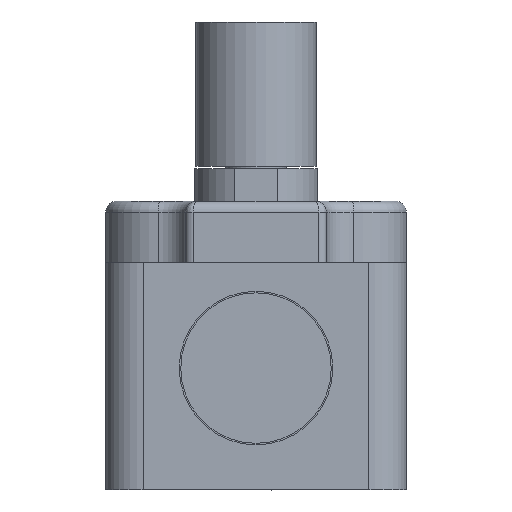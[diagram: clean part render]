
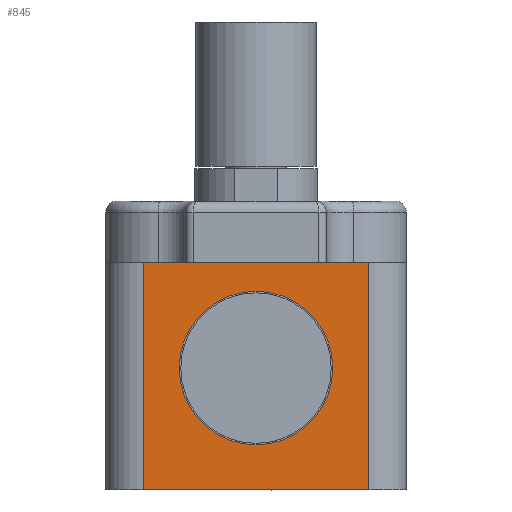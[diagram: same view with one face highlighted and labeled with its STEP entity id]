
A CAD part, front view. The second image highlights one B-rep face of the part: STEP entity #845.
In plain terms, the highlighted planar face has unit normal (0, -1, 0).
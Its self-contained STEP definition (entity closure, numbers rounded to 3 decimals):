
#324 = VERTEX_POINT ( 'NONE', #13535 ) ;
#326 = EDGE_CURVE ( 'NONE', #324, #327, #13534, .T. ) ;
#327 = VERTEX_POINT ( 'NONE', #13529 ) ;
#548 = VERTEX_POINT ( 'NONE', #14017 ) ;
#550 = EDGE_CURVE ( 'NONE', #551, #548, #14016, .T. ) ;
#551 = VERTEX_POINT ( 'NONE', #14012 ) ;
#845 = ADVANCED_FACE ( 'NONE', ( #14933, #14932 ), #14931, .T. ) ;
#846 = ORIENTED_EDGE ( 'NONE', *, *, #847, .F. ) ;
#847 = EDGE_CURVE ( 'NONE', #327, #324, #14929, .T. ) ;
#848 = ORIENTED_EDGE ( 'NONE', *, *, #326, .F. ) ;
#849 = EDGE_LOOP ( 'NONE', ( #850, #851, #854, #856 ) ) ;
#850 = ORIENTED_EDGE ( 'NONE', *, *, #868, .T. ) ;
#851 = ORIENTED_EDGE ( 'NONE', *, *, #852, .F. ) ;
#852 = EDGE_CURVE ( 'NONE', #853, #866, #14921, .T. ) ;
#853 = VERTEX_POINT ( 'NONE', #14917 ) ;
#854 = ORIENTED_EDGE ( 'NONE', *, *, #855, .F. ) ;
#855 = EDGE_CURVE ( 'NONE', #551, #853, #14916, .T. ) ;
#856 = ORIENTED_EDGE ( 'NONE', *, *, #550, .T. ) ;
#866 = VERTEX_POINT ( 'NONE', #14960 ) ;
#868 = EDGE_CURVE ( 'NONE', #548, #866, #14959, .T. ) ;
#870 = EDGE_LOOP ( 'NONE', ( #846, #848 ) ) ;
#13529 = CARTESIAN_POINT ( 'NONE',  ( 0., -66.3, -10.2 ) ) ;
#13530 = DIRECTION ( 'NONE',  ( 0., 0., -1. ) ) ;
#13531 = DIRECTION ( 'NONE',  ( 0., -1., 0. ) ) ;
#13532 = CARTESIAN_POINT ( 'NONE',  ( 0., -66.3, 0. ) ) ;
#13533 = AXIS2_PLACEMENT_3D ( 'NONE', #13532, #13531, #13530 ) ;
#13534 = CIRCLE ( 'NONE', #13533, 10.2 ) ;
#13535 = CARTESIAN_POINT ( 'NONE',  ( 0., -66.3, 10.2 ) ) ;
#14012 = CARTESIAN_POINT ( 'NONE',  ( -15., -66.3, -16.2 ) ) ;
#14013 = DIRECTION ( 'NONE',  ( 1., 0., 0. ) ) ;
#14014 = VECTOR ( 'NONE', #14013, 1000. ) ;
#14015 = CARTESIAN_POINT ( 'NONE',  ( 15., -66.3, -16.2 ) ) ;
#14016 = LINE ( 'NONE', #14015, #14014 ) ;
#14017 = CARTESIAN_POINT ( 'NONE',  ( 15., -66.3, -16.2 ) ) ;
#14915 = CARTESIAN_POINT ( 'NONE',  ( -15., -66.3, -16.2 ) ) ;
#14916 = LINE ( 'NONE', #14915, #14977 ) ;
#14917 = CARTESIAN_POINT ( 'NONE',  ( -15., -66.3, 14. ) ) ;
#14918 = DIRECTION ( 'NONE',  ( 1., 0., 0. ) ) ;
#14919 = VECTOR ( 'NONE', #14918, 1000. ) ;
#14920 = CARTESIAN_POINT ( 'NONE',  ( 15., -66.3, 14. ) ) ;
#14921 = LINE ( 'NONE', #14920, #14919 ) ;
#14922 = DIRECTION ( 'NONE',  ( 0., 0., -1. ) ) ;
#14923 = DIRECTION ( 'NONE',  ( 0., -1., 0. ) ) ;
#14924 = CARTESIAN_POINT ( 'NONE',  ( 0., -66.3, 0. ) ) ;
#14925 = AXIS2_PLACEMENT_3D ( 'NONE', #14924, #14923, #14922 ) ;
#14926 = DIRECTION ( 'NONE',  ( 0., 0., -1. ) ) ;
#14927 = DIRECTION ( 'NONE',  ( 0., -1., 0. ) ) ;
#14928 = CARTESIAN_POINT ( 'NONE',  ( 15., -66.3, -16.2 ) ) ;
#14929 = CIRCLE ( 'NONE', #14925, 10.2 ) ;
#14930 = AXIS2_PLACEMENT_3D ( 'NONE', #14928, #14927, #14926 ) ;
#14931 = PLANE ( 'NONE',  #14930 ) ;
#14932 = FACE_OUTER_BOUND ( 'NONE', #849, .T. ) ;
#14933 = FACE_BOUND ( 'NONE', #870, .T. ) ;
#14956 = DIRECTION ( 'NONE',  ( 0., 0., 1. ) ) ;
#14957 = VECTOR ( 'NONE', #14956, 1000. ) ;
#14958 = CARTESIAN_POINT ( 'NONE',  ( 15., -66.3, -16.2 ) ) ;
#14959 = LINE ( 'NONE', #14958, #14957 ) ;
#14960 = CARTESIAN_POINT ( 'NONE',  ( 15., -66.3, 14. ) ) ;
#14976 = DIRECTION ( 'NONE',  ( 0., 0., 1. ) ) ;
#14977 = VECTOR ( 'NONE', #14976, 1000. ) ;
